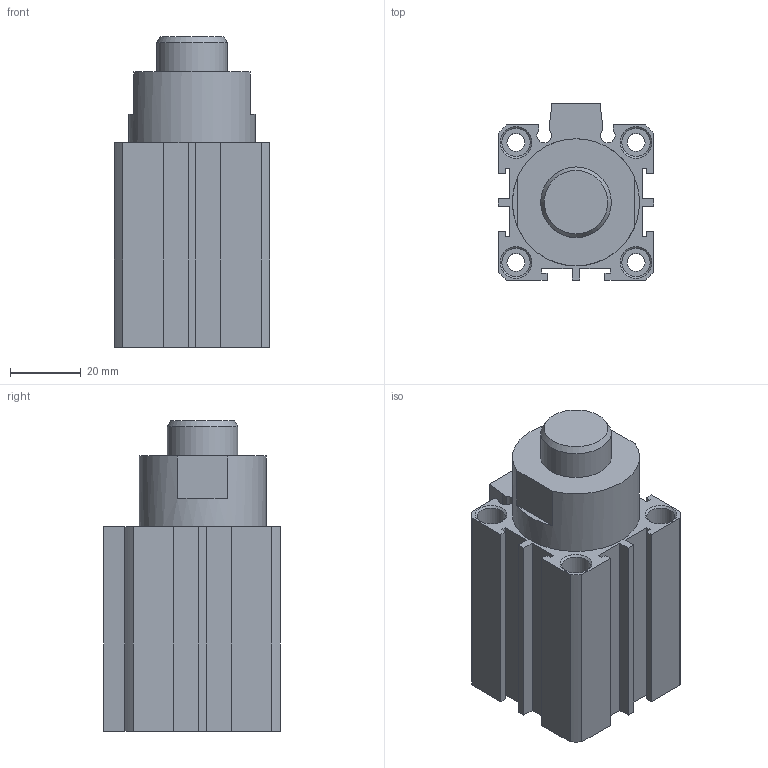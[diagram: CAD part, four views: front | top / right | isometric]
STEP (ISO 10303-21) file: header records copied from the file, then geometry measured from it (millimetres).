
FILE_DESCRIPTION((''),'2;1');
FILE_NAME('I:\3D電子目錄\氣缸\STB\STB32\STB32x10.stp','2007-09-19T13:24:52',('Administrator'),(''),'Autodesk Inventor 11','Autodesk Inventor 11','');
FILE_SCHEMA(('AUTOMOTIVE_DESIGN { 1 0 10303 214 1 1 1 1 }'));
Length unit declared in the file: millimetre
Products named in the file (1): STB32
Bounding box: 44 x 50 x 88 mm (x, y, z)
Volume: 119245.8 mm3; surface area: 26898.8 mm2
Topology: 1 solids, 1 shells, 117 faces, 277 edges, 181 vertices
Faces by surface type: plane 70, cylinder 26, cone 13, bspline 7, torus 1
Full cylindrical faces by diameter (mm): 2.2 x2, 5.1 x4, 8 x8, 20 x1, 23 x1, 34 x2, 36 x2
Entity records: 3242 total; most frequent: CARTESIAN_POINT 632, DIRECTION 532, ORIENTED_EDGE 468, EDGE_CURVE 234, AXIS2_PLACEMENT_3D 187, EDGE_LOOP 182, VERTEX_POINT 176, VECTOR 158
